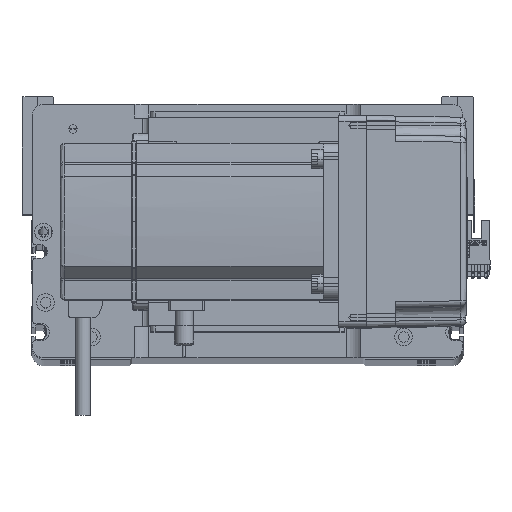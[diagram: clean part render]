
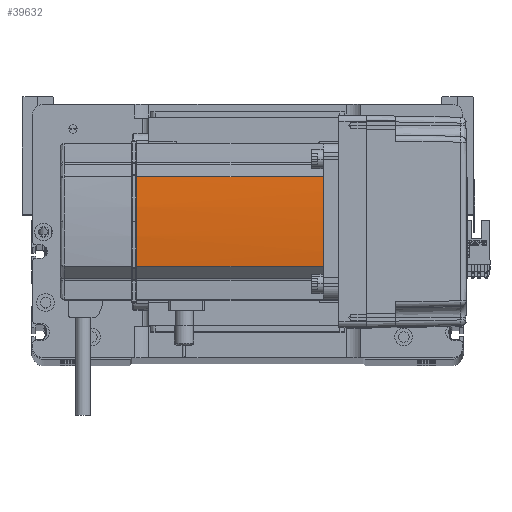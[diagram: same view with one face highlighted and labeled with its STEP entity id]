
A CAD part, top view. The second image highlights one B-rep face of the part: STEP entity #39632.
In plain terms, the highlighted cylindrical face has radius 270 mm (diameter 540 mm), a partial arc.
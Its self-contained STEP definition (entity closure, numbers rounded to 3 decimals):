
#1828 = DIRECTION ( 'NONE',  ( 0., 0., 1. ) ) ;
#6080 = CIRCLE ( 'NONE', #7746, 270. ) ;
#6995 = EDGE_LOOP ( 'NONE', ( #25472, #29605, #30840, #31449, #10435 ) ) ;
#7153 = DIRECTION ( 'NONE',  ( 1., 0., 0. ) ) ;
#7402 = CARTESIAN_POINT ( 'NONE',  ( -40., 0., 134. ) ) ;
#7746 = AXIS2_PLACEMENT_3D ( 'NONE', #49868, #41447, #53972 ) ;
#10435 = ORIENTED_EDGE ( 'NONE', *, *, #16314, .T. ) ;
#13042 = FACE_OUTER_BOUND ( 'NONE', #6995, .T. ) ;
#14527 = DIRECTION ( 'NONE',  ( 0., 0., -1. ) ) ;
#14923 = VERTEX_POINT ( 'NONE', #17609 ) ;
#16314 = EDGE_CURVE ( 'NONE', #14923, #22531, #52559, .T. ) ;
#17609 = CARTESIAN_POINT ( 'NONE',  ( -39.042, -22.724, 39. ) ) ;
#22531 = VERTEX_POINT ( 'NONE', #49081 ) ;
#22709 = CIRCLE ( 'NONE', #53038, 270. ) ;
#22925 = CYLINDRICAL_SURFACE ( 'NONE', #54780, 270. ) ;
#25426 = VECTOR ( 'NONE', #14527, 1000. ) ;
#25472 = ORIENTED_EDGE ( 'NONE', *, *, #41542, .T. ) ;
#26103 = VERTEX_POINT ( 'NONE', #38817 ) ;
#29605 = ORIENTED_EDGE ( 'NONE', *, *, #50108, .T. ) ;
#30605 = CARTESIAN_POINT ( 'NONE',  ( -39.042, 22.724, 0. ) ) ;
#30840 = ORIENTED_EDGE ( 'NONE', *, *, #53897, .T. ) ;
#30875 = VERTEX_POINT ( 'NONE', #46740 ) ;
#31449 = ORIENTED_EDGE ( 'NONE', *, *, #51558, .F. ) ;
#32360 = CIRCLE ( 'NONE', #37613, 270. ) ;
#36514 = CARTESIAN_POINT ( 'NONE',  ( -39.042, -22.724, 0. ) ) ;
#37613 = AXIS2_PLACEMENT_3D ( 'NONE', #44097, #44657, #48521 ) ;
#38113 = LINE ( 'NONE', #30605, #25426 ) ;
#38669 = VECTOR ( 'NONE', #44845, 1000. ) ;
#38817 = CARTESIAN_POINT ( 'NONE',  ( -39.042, 22.724, 134. ) ) ;
#39632 = ADVANCED_FACE ( 'NONE', ( #13042 ), #22925, .T. ) ;
#40166 = CARTESIAN_POINT ( 'NONE',  ( 230., 0., 134. ) ) ;
#41447 = DIRECTION ( 'NONE',  ( 0., 0., -1. ) ) ;
#41542 = EDGE_CURVE ( 'NONE', #22531, #47728, #22709, .T. ) ;
#43664 = DIRECTION ( 'NONE',  ( 0., 0., -1. ) ) ;
#43963 = CARTESIAN_POINT ( 'NONE',  ( 230., 0., 0. ) ) ;
#44097 = CARTESIAN_POINT ( 'NONE',  ( 230., 0., 39. ) ) ;
#44657 = DIRECTION ( 'NONE',  ( 0., 0., -1. ) ) ;
#44845 = DIRECTION ( 'NONE',  ( 0., 0., 1. ) ) ;
#46740 = CARTESIAN_POINT ( 'NONE',  ( -39.042, 22.724, 39. ) ) ;
#47728 = VERTEX_POINT ( 'NONE', #7402 ) ;
#47907 = DIRECTION ( 'NONE',  ( 1., 0., 0. ) ) ;
#48521 = DIRECTION ( 'NONE',  ( 1., 0., 0. ) ) ;
#49081 = CARTESIAN_POINT ( 'NONE',  ( -39.042, -22.724, 134. ) ) ;
#49868 = CARTESIAN_POINT ( 'NONE',  ( 230., 0., 134. ) ) ;
#50108 = EDGE_CURVE ( 'NONE', #47728, #26103, #6080, .T. ) ;
#51558 = EDGE_CURVE ( 'NONE', #14923, #30875, #32360, .T. ) ;
#52559 = LINE ( 'NONE', #36514, #38669 ) ;
#53038 = AXIS2_PLACEMENT_3D ( 'NONE', #40166, #43664, #47907 ) ;
#53897 = EDGE_CURVE ( 'NONE', #26103, #30875, #38113, .T. ) ;
#53972 = DIRECTION ( 'NONE',  ( 1., 0., 0. ) ) ;
#54780 = AXIS2_PLACEMENT_3D ( 'NONE', #43963, #1828, #7153 ) ;
